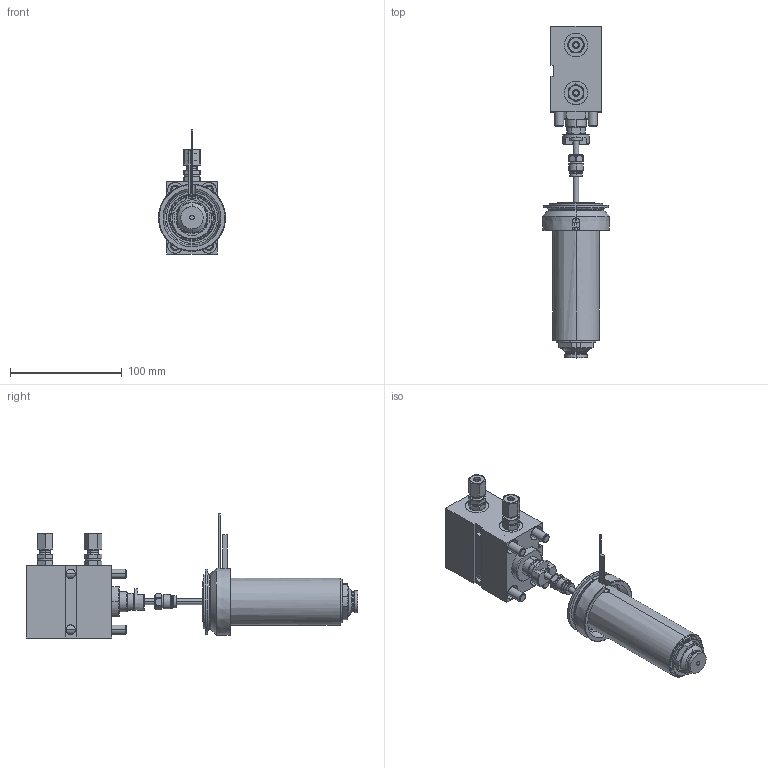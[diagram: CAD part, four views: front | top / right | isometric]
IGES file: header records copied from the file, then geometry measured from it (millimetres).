
Start section: Write IGES format                                    datakit 2008 (c)
Global section: file name: Unknown; native system: DATAKIT Converter; preprocessor: Unknown; author: Unknown; organization: Unknown; date: 950613.180003; units: millimetre
Bounding box: 59.94 x 297.5 x 111.15 mm (x, y, z)
Surface area: 161513.5 mm2 (no closed solid volume)
Topology: 0 solids, 0 shells, 799 faces, 3620 edges, 3602 vertices
Faces by surface type: revolution 516, bspline 283
